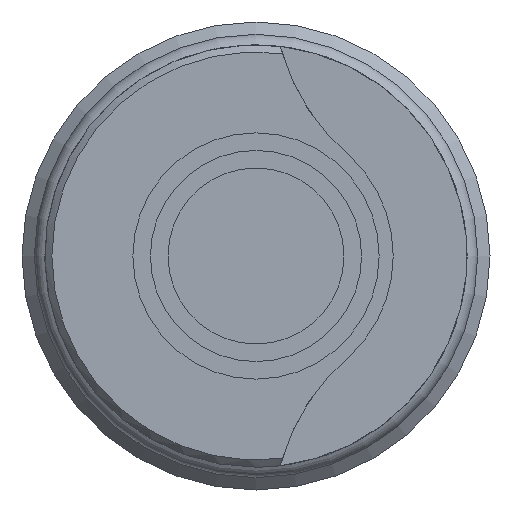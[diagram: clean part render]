
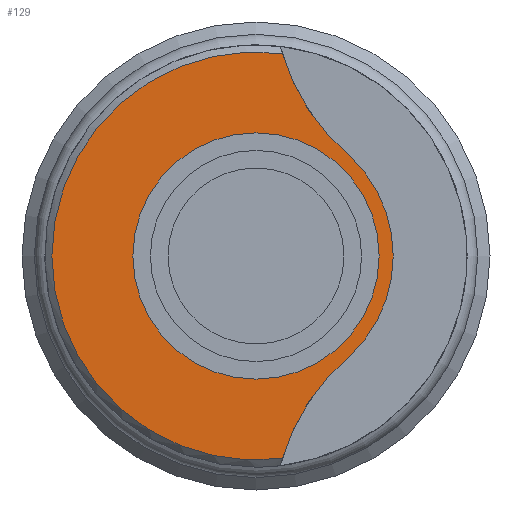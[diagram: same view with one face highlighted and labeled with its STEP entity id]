
A CAD part, left-side view. The second image highlights one B-rep face of the part: STEP entity #129.
In plain terms, the highlighted planar face has unit normal (-1, 0, 0).
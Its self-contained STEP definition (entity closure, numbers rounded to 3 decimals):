
#129 = ADVANCED_FACE( '', ( #286, #287 ), #288, .F. );
#286 = FACE_OUTER_BOUND( '', #459, .T. );
#287 = FACE_BOUND( '', #460, .T. );
#288 = PLANE( '', #461 );
#459 = EDGE_LOOP( '', ( #754, #755, #756, #757 ) );
#460 = EDGE_LOOP( '', ( #758 ) );
#461 = AXIS2_PLACEMENT_3D( '', #759, #760, #761 );
#754 = ORIENTED_EDGE( '', *, *, #986, .F. );
#755 = ORIENTED_EDGE( '', *, *, #1002, .T. );
#756 = ORIENTED_EDGE( '', *, *, #901, .F. );
#757 = ORIENTED_EDGE( '', *, *, #947, .T. );
#758 = ORIENTED_EDGE( '', *, *, #977, .T. );
#759 = CARTESIAN_POINT( '', ( 0., 3.5, 0. ) );
#760 = DIRECTION( '', ( 1., 0., 0. ) );
#761 = DIRECTION( '', ( 0., 0., -1. ) );
#901 = EDGE_CURVE( '', #1047, #1048, #1049, .T. );
#947 = EDGE_CURVE( '', #1047, #1124, #1126, .T. );
#977 = EDGE_CURVE( '', #1169, #1169, #1170, .T. );
#986 = EDGE_CURVE( '', #1180, #1124, #1182, .T. );
#1002 = EDGE_CURVE( '', #1180, #1048, #1203, .T. );
#1047 = VERTEX_POINT( '', #1257 );
#1048 = VERTEX_POINT( '', #1258 );
#1049 = CIRCLE( '', #1259, 3.9 );
#1124 = VERTEX_POINT( '', #1357 );
#1126 = CIRCLE( '', #1362, 6. );
#1169 = VERTEX_POINT( '', #1425 );
#1170 = CIRCLE( '', #1426, 3.5 );
#1180 = VERTEX_POINT( '', #1436 );
#1182 = CIRCLE( '', #1441, 5.8 );
#1203 = CIRCLE( '', #1466, 6. );
#1257 = CARTESIAN_POINT( '', ( 0., -2.681, 2.832 ) );
#1258 = CARTESIAN_POINT( '', ( 0., -2.681, -2.832 ) );
#1259 = AXIS2_PLACEMENT_3D( '', #1519, #1520, #1521 );
#1357 = CARTESIAN_POINT( '', ( 0., -0.748, 5.752 ) );
#1362 = AXIS2_PLACEMENT_3D( '', #1581, #1582, #1583 );
#1425 = CARTESIAN_POINT( '', ( 0., 0., -3.5 ) );
#1426 = AXIS2_PLACEMENT_3D( '', #1617, #1618, #1619 );
#1436 = CARTESIAN_POINT( '', ( 0., -0.748, -5.752 ) );
#1441 = AXIS2_PLACEMENT_3D( '', #1629, #1630, #1631 );
#1466 = AXIS2_PLACEMENT_3D( '', #1648, #1649, #1650 );
#1519 = CARTESIAN_POINT( '', ( 0., 0., 0. ) );
#1520 = DIRECTION( '', ( 1., 0., 0. ) );
#1521 = DIRECTION( '', ( 0., 0., -1. ) );
#1581 = CARTESIAN_POINT( '', ( 0., -6.5, 7.46 ) );
#1582 = DIRECTION( '', ( 1., 0., 0. ) );
#1583 = DIRECTION( '', ( 0., 0., -1. ) );
#1617 = CARTESIAN_POINT( '', ( 0., 0., 0. ) );
#1618 = DIRECTION( '', ( 1., 0., 0. ) );
#1619 = DIRECTION( '', ( 0., 0., -1. ) );
#1629 = CARTESIAN_POINT( '', ( 0., 0., 0. ) );
#1630 = DIRECTION( '', ( 1., 0., 0. ) );
#1631 = DIRECTION( '', ( 0., 0., -1. ) );
#1648 = CARTESIAN_POINT( '', ( 0., -6.5, -7.46 ) );
#1649 = DIRECTION( '', ( 1., 0., 0. ) );
#1650 = DIRECTION( '', ( 0., 0., -1. ) );
